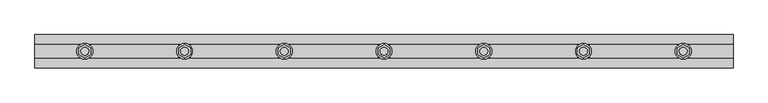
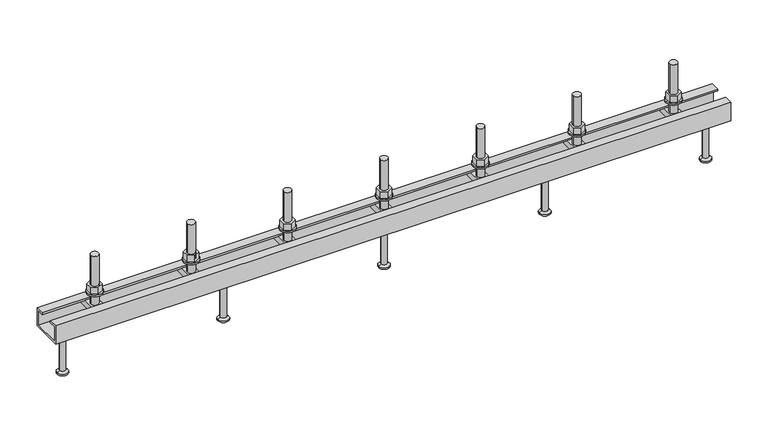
"""IFC4 building model written with IfcOpenShell, lengths in millimetres: fastener geometry, JTA-K JORDAHL® AnchorChannels : JTA-K L=1050 mm."""

from ifc_helpers import new_model, si_unit, point, frame, frame_2d, origin, place, context, project, spatial, polyline, circle_curve, trimmed, segment, composite_curve, outline, extrude, source, transform, mapped, element, save
from ifc_brep_helpers import plane_surface, cylinder_surface, revolved_surface, advanced_brep


def fastener_7a9c5ce5(model_context):
    return source(origin(), model_context, "Body", "SolidModel", [
        extrude(outline(polyline([(825.0, -10.3923048), (816.0, -5.1961524), (816.0, 5.1961524), (825.0, 10.3923048), (834.0, 5.1961524), (834.0, -5.1961524), (825.0, -10.3923048)]), holes=[composite_curve([segment(trimmed(circle_curve(frame_2d((825.0, 0.0)), 6.0), [point((819.0, 0.0))], [point((831.0, 0.0))], True, "CARTESIAN"), True, "CONTINUOUS"), segment(trimmed(circle_curve(frame_2d((825.0, 0.0)), 6.0), [point((831.0, 0.0))], [point((819.0, 0.0))], True, "CARTESIAN"), True, "CONTINUOUS")], self_intersect=False)]), frame((0.0, 0.0, 17.5), z_axis=(0.0, 0.0, 1.0), x_axis=(1.0, 0.0, 0.0)), (0.0, 0.0, 1.0), 10.8),
        extrude(outline(composite_curve([segment(trimmed(circle_curve(frame_2d((825.0, 0.0)), 12.0), [point((813.0, 0.0))], [point((837.0, 0.0))], False, "CARTESIAN"), True, "CONTINUOUS"), segment(trimmed(circle_curve(frame_2d((825.0, 0.0)), 12.0), [point((837.0, 0.0))], [point((813.0, 0.0))], False, "CARTESIAN"), True, "CONTINUOUS")], self_intersect=False), holes=[composite_curve([segment(trimmed(circle_curve(frame_2d((825.0, 0.0)), 6.5), [point((818.5, 0.0))], [point((831.5, 0.0))], True, "CARTESIAN"), True, "CONTINUOUS"), segment(trimmed(circle_curve(frame_2d((825.0, 0.0)), 6.5), [point((831.5, 0.0))], [point((818.5, 0.0))], True, "CARTESIAN"), True, "CONTINUOUS")], self_intersect=False)]), frame((0.0, 0.0, 15.0), z_axis=(0.0, 0.0, 1.0), x_axis=(1.0, 0.0, 0.0)), (0.0, 0.0, 1.0), 2.5),
        extrude(outline(polyline([(675.0, -10.3923048), (666.0, -5.1961524), (666.0, 5.1961524), (675.0, 10.3923048), (684.0, 5.1961524), (684.0, -5.1961524), (675.0, -10.3923048)]), holes=[composite_curve([segment(trimmed(circle_curve(frame_2d((675.0, 0.0)), 6.0), [point((669.0, 0.0))], [point((681.0, 0.0))], True, "CARTESIAN"), True, "CONTINUOUS"), segment(trimmed(circle_curve(frame_2d((675.0, 0.0)), 6.0), [point((681.0, 0.0))], [point((669.0, 0.0))], True, "CARTESIAN"), True, "CONTINUOUS")], self_intersect=False)]), frame((0.0, 0.0, 17.5), z_axis=(0.0, 0.0, 1.0), x_axis=(1.0, 0.0, 0.0)), (0.0, 0.0, 1.0), 10.8),
        extrude(outline(composite_curve([segment(trimmed(circle_curve(frame_2d((675.0, 0.0)), 12.0), [point((663.0, 0.0))], [point((687.0, 0.0))], False, "CARTESIAN"), True, "CONTINUOUS"), segment(trimmed(circle_curve(frame_2d((675.0, 0.0)), 12.0), [point((687.0, 0.0))], [point((663.0, 0.0))], False, "CARTESIAN"), True, "CONTINUOUS")], self_intersect=False), holes=[composite_curve([segment(trimmed(circle_curve(frame_2d((675.0, 0.0)), 6.5), [point((668.5, 0.0))], [point((681.5, 0.0))], True, "CARTESIAN"), True, "CONTINUOUS"), segment(trimmed(circle_curve(frame_2d((675.0, 0.0)), 6.5), [point((681.5, 0.0))], [point((668.5, 0.0))], True, "CARTESIAN"), True, "CONTINUOUS")], self_intersect=False)]), frame((0.0, 0.0, 15.0), z_axis=(0.0, 0.0, 1.0), x_axis=(1.0, 0.0, 0.0)), (0.0, 0.0, 1.0), 2.5),
        extrude(outline(polyline([(525.0, -10.3923048), (516.0, -5.1961524), (516.0, 5.1961524), (525.0, 10.3923048), (534.0, 5.1961524), (534.0, -5.1961524), (525.0, -10.3923048)]), holes=[composite_curve([segment(trimmed(circle_curve(frame_2d((525.0, 0.0)), 6.0), [point((519.0, 0.0))], [point((531.0, 0.0))], True, "CARTESIAN"), True, "CONTINUOUS"), segment(trimmed(circle_curve(frame_2d((525.0, 0.0)), 6.0), [point((531.0, 0.0))], [point((519.0, 0.0))], True, "CARTESIAN"), True, "CONTINUOUS")], self_intersect=False)]), frame((0.0, 0.0, 17.5), z_axis=(0.0, 0.0, 1.0), x_axis=(1.0, 0.0, 0.0)), (0.0, 0.0, 1.0), 10.8),
        extrude(outline(composite_curve([segment(trimmed(circle_curve(frame_2d((525.0, 0.0)), 12.0), [point((513.0, 0.0))], [point((537.0, 0.0))], False, "CARTESIAN"), True, "CONTINUOUS"), segment(trimmed(circle_curve(frame_2d((525.0, 0.0)), 12.0), [point((537.0, 0.0))], [point((513.0, 0.0))], False, "CARTESIAN"), True, "CONTINUOUS")], self_intersect=False), holes=[composite_curve([segment(trimmed(circle_curve(frame_2d((525.0, 0.0)), 6.5), [point((518.5, 0.0))], [point((531.5, 0.0))], True, "CARTESIAN"), True, "CONTINUOUS"), segment(trimmed(circle_curve(frame_2d((525.0, 0.0)), 6.5), [point((531.5, 0.0))], [point((518.5, 0.0))], True, "CARTESIAN"), True, "CONTINUOUS")], self_intersect=False)]), frame((0.0, 0.0, 15.0), z_axis=(0.0, 0.0, 1.0), x_axis=(1.0, 0.0, 0.0)), (0.0, 0.0, 1.0), 2.5),
        extrude(outline(polyline([(375.0, -10.3923048), (366.0, -5.1961524), (366.0, 5.1961524), (375.0, 10.3923048), (384.0, 5.1961524), (384.0, -5.1961524), (375.0, -10.3923048)]), holes=[composite_curve([segment(trimmed(circle_curve(frame_2d((375.0, 0.0)), 6.0), [point((369.0, 0.0))], [point((381.0, 0.0))], True, "CARTESIAN"), True, "CONTINUOUS"), segment(trimmed(circle_curve(frame_2d((375.0, 0.0)), 6.0), [point((381.0, 0.0))], [point((369.0, 0.0))], True, "CARTESIAN"), True, "CONTINUOUS")], self_intersect=False)]), frame((0.0, 0.0, 17.5), z_axis=(0.0, 0.0, 1.0), x_axis=(1.0, 0.0, 0.0)), (0.0, 0.0, 1.0), 10.8),
        extrude(outline(composite_curve([segment(trimmed(circle_curve(frame_2d((375.0, 0.0)), 12.0), [point((363.0, 0.0))], [point((387.0, 0.0))], False, "CARTESIAN"), True, "CONTINUOUS"), segment(trimmed(circle_curve(frame_2d((375.0, 0.0)), 12.0), [point((387.0, 0.0))], [point((363.0, 0.0))], False, "CARTESIAN"), True, "CONTINUOUS")], self_intersect=False), holes=[composite_curve([segment(trimmed(circle_curve(frame_2d((375.0, 0.0)), 6.5), [point((368.5, 0.0))], [point((381.5, 0.0))], True, "CARTESIAN"), True, "CONTINUOUS"), segment(trimmed(circle_curve(frame_2d((375.0, 0.0)), 6.5), [point((381.5, 0.0))], [point((368.5, 0.0))], True, "CARTESIAN"), True, "CONTINUOUS")], self_intersect=False)]), frame((0.0, 0.0, 15.0), z_axis=(0.0, 0.0, 1.0), x_axis=(1.0, 0.0, 0.0)), (0.0, 0.0, 1.0), 2.5),
        extrude(outline(polyline([(225.0, -10.3923048), (216.0, -5.1961524), (216.0, 5.1961524), (225.0, 10.3923048), (234.0, 5.1961524), (234.0, -5.1961524), (225.0, -10.3923048)]), holes=[composite_curve([segment(trimmed(circle_curve(frame_2d((225.0, 0.0)), 6.0), [point((219.0, 0.0))], [point((231.0, 0.0))], True, "CARTESIAN"), True, "CONTINUOUS"), segment(trimmed(circle_curve(frame_2d((225.0, 0.0)), 6.0), [point((231.0, 0.0))], [point((219.0, 0.0))], True, "CARTESIAN"), True, "CONTINUOUS")], self_intersect=False)]), frame((0.0, 0.0, 17.5), z_axis=(0.0, 0.0, 1.0), x_axis=(1.0, 0.0, 0.0)), (0.0, 0.0, 1.0), 10.8),
        extrude(outline(composite_curve([segment(trimmed(circle_curve(frame_2d((225.0, 0.0)), 12.0), [point((213.0, 0.0))], [point((237.0, 0.0))], False, "CARTESIAN"), True, "CONTINUOUS"), segment(trimmed(circle_curve(frame_2d((225.0, 0.0)), 12.0), [point((237.0, 0.0))], [point((213.0, 0.0))], False, "CARTESIAN"), True, "CONTINUOUS")], self_intersect=False), holes=[composite_curve([segment(trimmed(circle_curve(frame_2d((225.0, 0.0)), 6.5), [point((218.5, 0.0))], [point((231.5, 0.0))], True, "CARTESIAN"), True, "CONTINUOUS"), segment(trimmed(circle_curve(frame_2d((225.0, 0.0)), 6.5), [point((231.5, 0.0))], [point((218.5, 0.0))], True, "CARTESIAN"), True, "CONTINUOUS")], self_intersect=False)]), frame((0.0, 0.0, 15.0), z_axis=(0.0, 0.0, 1.0), x_axis=(1.0, 0.0, 0.0)), (0.0, 0.0, 1.0), 2.5),
        advanced_brep(
        [(833.5, -20.7, -3.0), (833.5, -20.7, -13.0), (833.5, 20.7, -13.0), (833.5, 20.7, -3.0), (816.5, -20.7, -3.0), (816.5, 20.7, -3.0), (816.5, 20.7, -13.0), (816.5, -20.7, -13.0), (831.0, 0.0, -3.0), (819.0, 0.0, -3.0), (819.0, 0.0, 77.0), (831.0, 0.0, 77.0)],
        [
            (0, 1),
            (1, 2),
            (2, 3),
            (3, 0),
            (4, 5),
            (5, 6),
            (6, 7),
            (7, 4),
            (3, 5),
            (4, 0),
            (8, 9, circle_curve(frame((825.0, 0.0, -3.0), z_axis=(0.0, 0.0, -1.0), x_axis=(1.0, 0.0, 0.0)), 6.0)),
            (9, 8, circle_curve(frame((825.0, 0.0, -3.0), z_axis=(0.0, 0.0, -1.0), x_axis=(1.0, 0.0, 0.0)), 6.0)),
            (2, 6),
            (1, 7),
            (10, 11, circle_curve(frame((825.0, 0.0, 77.0), z_axis=(0.0, 0.0, 1.0), x_axis=(1.0, 0.0, 0.0)), 6.0)),
            (11, 10, circle_curve(frame((825.0, 0.0, 77.0), z_axis=(0.0, 0.0, 1.0), x_axis=(1.0, 0.0, 0.0)), 6.0)),
            (11, 8),
            (9, 10),
        ],
        [
            plane_surface(frame((833.5, 20.7, -3.0), z_axis=(1.0, 0.0, 0.0), x_axis=(0.0, 1.0, 0.0))),
            plane_surface(frame((816.5, 20.7, -3.0), z_axis=(-1.0, 0.0, 0.0), x_axis=(0.0, -1.0, 0.0))),
            plane_surface(frame((833.5, -20.7, -3.0), z_axis=(0.0, 0.0, 1.0), x_axis=(-1.0, 0.0, 0.0))),
            plane_surface(frame((833.5, 20.7, -3.0), z_axis=(0.0, 1.0, 0.0), x_axis=(-1.0, 0.0, 0.0))),
            plane_surface(frame((833.5, 20.7, -13.0), z_axis=(0.0, 0.0, -1.0), x_axis=(-1.0, 0.0, 0.0))),
            plane_surface(frame((833.5, -20.7, -13.0), z_axis=(0.0, -1.0, 0.0), x_axis=(-1.0, 0.0, 0.0))),
            plane_surface(frame((831.0, 0.0, 77.0), z_axis=(0.0, 0.0, 1.0), x_axis=(0.0, -1.0, 0.0))),
            cylinder_surface(frame((825.0, 0.0, -3.0), z_axis=(0.0, 0.0, 1.0), x_axis=(1.0, 0.0, 0.0)), 6.0),
        ],
        [
            (0, [[1, 2, 3, 4]]),
            (1, [[5, 6, 7, 8]]),
            (2, [[9, -5, 10, -4], [11, 12]]),
            (3, [[13, -6, -9, -3]]),
            (4, [[14, -7, -13, -2]]),
            (5, [[-10, -8, -14, -1]]),
            (6, [[15, 16]]),
            (7, [[17, -12, 18, -16]]),
            (7, [[-18, -11, -17, -15]]),
        ],
    ),
        advanced_brep(
        [(683.5, -20.7, -3.0), (683.5, -20.7, -13.0), (683.5, 20.7, -13.0), (683.5, 20.7, -3.0), (666.5, -20.7, -3.0), (666.5, 20.7, -3.0), (666.5, 20.7, -13.0), (666.5, -20.7, -13.0), (681.0, 0.0, -3.0), (669.0, 0.0, -3.0), (669.0, 0.0, 77.0), (681.0, 0.0, 77.0)],
        [
            (0, 1),
            (1, 2),
            (2, 3),
            (3, 0),
            (4, 5),
            (5, 6),
            (6, 7),
            (7, 4),
            (3, 5),
            (4, 0),
            (8, 9, circle_curve(frame((675.0, 0.0, -3.0), z_axis=(0.0, 0.0, -1.0), x_axis=(1.0, 0.0, 0.0)), 6.0)),
            (9, 8, circle_curve(frame((675.0, 0.0, -3.0), z_axis=(0.0, 0.0, -1.0), x_axis=(1.0, 0.0, 0.0)), 6.0)),
            (2, 6),
            (1, 7),
            (10, 11, circle_curve(frame((675.0, 0.0, 77.0), z_axis=(0.0, 0.0, 1.0), x_axis=(1.0, 0.0, 0.0)), 6.0)),
            (11, 10, circle_curve(frame((675.0, 0.0, 77.0), z_axis=(0.0, 0.0, 1.0), x_axis=(1.0, 0.0, 0.0)), 6.0)),
            (11, 8),
            (9, 10),
        ],
        [
            plane_surface(frame((683.5, 20.7, -3.0), z_axis=(1.0, 0.0, 0.0), x_axis=(0.0, 1.0, 0.0))),
            plane_surface(frame((666.5, 20.7, -3.0), z_axis=(-1.0, 0.0, 0.0), x_axis=(0.0, -1.0, 0.0))),
            plane_surface(frame((683.5, -20.7, -3.0), z_axis=(0.0, 0.0, 1.0), x_axis=(-1.0, 0.0, 0.0))),
            plane_surface(frame((683.5, 20.7, -3.0), z_axis=(0.0, 1.0, 0.0), x_axis=(-1.0, 0.0, 0.0))),
            plane_surface(frame((683.5, 20.7, -13.0), z_axis=(0.0, 0.0, -1.0), x_axis=(-1.0, 0.0, 0.0))),
            plane_surface(frame((683.5, -20.7, -13.0), z_axis=(0.0, -1.0, 0.0), x_axis=(-1.0, 0.0, 0.0))),
            plane_surface(frame((681.0, 0.0, 77.0), z_axis=(0.0, 0.0, 1.0), x_axis=(0.0, -1.0, 0.0))),
            cylinder_surface(frame((675.0, 0.0, -3.0), z_axis=(0.0, 0.0, 1.0), x_axis=(1.0, 0.0, 0.0)), 6.0),
        ],
        [
            (0, [[1, 2, 3, 4]]),
            (1, [[5, 6, 7, 8]]),
            (2, [[9, -5, 10, -4], [11, 12]]),
            (3, [[13, -6, -9, -3]]),
            (4, [[14, -7, -13, -2]]),
            (5, [[-10, -8, -14, -1]]),
            (6, [[15, 16]]),
            (7, [[17, -12, 18, -16]]),
            (7, [[-18, -11, -17, -15]]),
        ],
    ),
        advanced_brep(
        [(533.5, -20.7, -3.0), (533.5, -20.7, -13.0), (533.5, 20.7, -13.0), (533.5, 20.7, -3.0), (516.5, -20.7, -3.0), (516.5, 20.7, -3.0), (516.5, 20.7, -13.0), (516.5, -20.7, -13.0), (531.0, 0.0, -3.0), (519.0, 0.0, -3.0), (519.0, 0.0, 77.0), (531.0, 0.0, 77.0)],
        [
            (0, 1),
            (1, 2),
            (2, 3),
            (3, 0),
            (4, 5),
            (5, 6),
            (6, 7),
            (7, 4),
            (3, 5),
            (4, 0),
            (8, 9, circle_curve(frame((525.0, 0.0, -3.0), z_axis=(0.0, 0.0, -1.0), x_axis=(1.0, 0.0, 0.0)), 6.0)),
            (9, 8, circle_curve(frame((525.0, 0.0, -3.0), z_axis=(0.0, 0.0, -1.0), x_axis=(1.0, 0.0, 0.0)), 6.0)),
            (2, 6),
            (1, 7),
            (10, 11, circle_curve(frame((525.0, 0.0, 77.0), z_axis=(0.0, 0.0, 1.0), x_axis=(1.0, 0.0, 0.0)), 6.0)),
            (11, 10, circle_curve(frame((525.0, 0.0, 77.0), z_axis=(0.0, 0.0, 1.0), x_axis=(1.0, 0.0, 0.0)), 6.0)),
            (11, 8),
            (9, 10),
        ],
        [
            plane_surface(frame((533.5, 20.7, -3.0), z_axis=(1.0, 0.0, 0.0), x_axis=(0.0, 1.0, 0.0))),
            plane_surface(frame((516.5, 20.7, -3.0), z_axis=(-1.0, 0.0, 0.0), x_axis=(0.0, -1.0, 0.0))),
            plane_surface(frame((533.5, -20.7, -3.0), z_axis=(0.0, 0.0, 1.0), x_axis=(-1.0, 0.0, 0.0))),
            plane_surface(frame((533.5, 20.7, -3.0), z_axis=(0.0, 1.0, 0.0), x_axis=(-1.0, 0.0, 0.0))),
            plane_surface(frame((533.5, 20.7, -13.0), z_axis=(0.0, 0.0, -1.0), x_axis=(-1.0, 0.0, 0.0))),
            plane_surface(frame((533.5, -20.7, -13.0), z_axis=(0.0, -1.0, 0.0), x_axis=(-1.0, 0.0, 0.0))),
            plane_surface(frame((531.0, 0.0, 77.0), z_axis=(0.0, 0.0, 1.0), x_axis=(0.0, -1.0, 0.0))),
            cylinder_surface(frame((525.0, 0.0, -3.0), z_axis=(0.0, 0.0, 1.0), x_axis=(1.0, 0.0, 0.0)), 6.0),
        ],
        [
            (0, [[1, 2, 3, 4]]),
            (1, [[5, 6, 7, 8]]),
            (2, [[9, -5, 10, -4], [11, 12]]),
            (3, [[13, -6, -9, -3]]),
            (4, [[14, -7, -13, -2]]),
            (5, [[-10, -8, -14, -1]]),
            (6, [[15, 16]]),
            (7, [[17, -12, 18, -16]]),
            (7, [[-18, -11, -17, -15]]),
        ],
    ),
        advanced_brep(
        [(383.5, -20.7, -3.0), (383.5, -20.7, -13.0), (383.5, 20.7, -13.0), (383.5, 20.7, -3.0), (366.5, -20.7, -3.0), (366.5, 20.7, -3.0), (366.5, 20.7, -13.0), (366.5, -20.7, -13.0), (381.0, 0.0, -3.0), (369.0, 0.0, -3.0), (369.0, 0.0, 77.0), (381.0, 0.0, 77.0)],
        [
            (0, 1),
            (1, 2),
            (2, 3),
            (3, 0),
            (4, 5),
            (5, 6),
            (6, 7),
            (7, 4),
            (3, 5),
            (4, 0),
            (8, 9, circle_curve(frame((375.0, 0.0, -3.0), z_axis=(0.0, 0.0, -1.0), x_axis=(1.0, 0.0, 0.0)), 6.0)),
            (9, 8, circle_curve(frame((375.0, 0.0, -3.0), z_axis=(0.0, 0.0, -1.0), x_axis=(1.0, 0.0, 0.0)), 6.0)),
            (2, 6),
            (1, 7),
            (10, 11, circle_curve(frame((375.0, 0.0, 77.0), z_axis=(0.0, 0.0, 1.0), x_axis=(1.0, 0.0, 0.0)), 6.0)),
            (11, 10, circle_curve(frame((375.0, 0.0, 77.0), z_axis=(0.0, 0.0, 1.0), x_axis=(1.0, 0.0, 0.0)), 6.0)),
            (11, 8),
            (9, 10),
        ],
        [
            plane_surface(frame((383.5, 20.7, -3.0), z_axis=(1.0, 0.0, 0.0), x_axis=(0.0, 1.0, 0.0))),
            plane_surface(frame((366.5, 20.7, -3.0), z_axis=(-1.0, 0.0, 0.0), x_axis=(0.0, -1.0, 0.0))),
            plane_surface(frame((383.5, -20.7, -3.0), z_axis=(0.0, 0.0, 1.0), x_axis=(-1.0, 0.0, 0.0))),
            plane_surface(frame((383.5, 20.7, -3.0), z_axis=(0.0, 1.0, 0.0), x_axis=(-1.0, 0.0, 0.0))),
            plane_surface(frame((383.5, 20.7, -13.0), z_axis=(0.0, 0.0, -1.0), x_axis=(-1.0, 0.0, 0.0))),
            plane_surface(frame((383.5, -20.7, -13.0), z_axis=(0.0, -1.0, 0.0), x_axis=(-1.0, 0.0, 0.0))),
            plane_surface(frame((381.0, 0.0, 77.0), z_axis=(0.0, 0.0, 1.0), x_axis=(0.0, -1.0, 0.0))),
            cylinder_surface(frame((375.0, 0.0, -3.0), z_axis=(0.0, 0.0, 1.0), x_axis=(1.0, 0.0, 0.0)), 6.0),
        ],
        [
            (0, [[1, 2, 3, 4]]),
            (1, [[5, 6, 7, 8]]),
            (2, [[9, -5, 10, -4], [11, 12]]),
            (3, [[13, -6, -9, -3]]),
            (4, [[14, -7, -13, -2]]),
            (5, [[-10, -8, -14, -1]]),
            (6, [[15, 16]]),
            (7, [[17, -12, 18, -16]]),
            (7, [[-18, -11, -17, -15]]),
        ],
    ),
        advanced_brep(
        [(233.5, -20.7, -3.0), (233.5, -20.7, -13.0), (233.5, 20.7, -13.0), (233.5, 20.7, -3.0), (216.5, -20.7, -3.0), (216.5, 20.7, -3.0), (216.5, 20.7, -13.0), (216.5, -20.7, -13.0), (231.0, 0.0, -3.0), (219.0, 0.0, -3.0), (219.0, 0.0, 77.0), (231.0, 0.0, 77.0)],
        [
            (0, 1),
            (1, 2),
            (2, 3),
            (3, 0),
            (4, 5),
            (5, 6),
            (6, 7),
            (7, 4),
            (3, 5),
            (4, 0),
            (8, 9, circle_curve(frame((225.0, 0.0, -3.0), z_axis=(0.0, 0.0, -1.0), x_axis=(1.0, 0.0, 0.0)), 6.0)),
            (9, 8, circle_curve(frame((225.0, 0.0, -3.0), z_axis=(0.0, 0.0, -1.0), x_axis=(1.0, 0.0, 0.0)), 6.0)),
            (2, 6),
            (1, 7),
            (10, 11, circle_curve(frame((225.0, 0.0, 77.0), z_axis=(0.0, 0.0, 1.0), x_axis=(1.0, 0.0, 0.0)), 6.0)),
            (11, 10, circle_curve(frame((225.0, 0.0, 77.0), z_axis=(0.0, 0.0, 1.0), x_axis=(1.0, 0.0, 0.0)), 6.0)),
            (11, 8),
            (9, 10),
        ],
        [
            plane_surface(frame((233.5, 20.7, -3.0), z_axis=(1.0, 0.0, 0.0), x_axis=(0.0, 1.0, 0.0))),
            plane_surface(frame((216.5, 20.7, -3.0), z_axis=(-1.0, 0.0, 0.0), x_axis=(0.0, -1.0, 0.0))),
            plane_surface(frame((233.5, -20.7, -3.0), z_axis=(0.0, 0.0, 1.0), x_axis=(-1.0, 0.0, 0.0))),
            plane_surface(frame((233.5, 20.7, -3.0), z_axis=(0.0, 1.0, 0.0), x_axis=(-1.0, 0.0, 0.0))),
            plane_surface(frame((233.5, 20.7, -13.0), z_axis=(0.0, 0.0, -1.0), x_axis=(-1.0, 0.0, 0.0))),
            plane_surface(frame((233.5, -20.7, -13.0), z_axis=(0.0, -1.0, 0.0), x_axis=(-1.0, 0.0, 0.0))),
            plane_surface(frame((231.0, 0.0, 77.0), z_axis=(0.0, 0.0, 1.0), x_axis=(0.0, -1.0, 0.0))),
            cylinder_surface(frame((225.0, 0.0, -3.0), z_axis=(0.0, 0.0, 1.0), x_axis=(1.0, 0.0, 0.0)), 6.0),
        ],
        [
            (0, [[1, 2, 3, 4]]),
            (1, [[5, 6, 7, 8]]),
            (2, [[9, -5, 10, -4], [11, 12]]),
            (3, [[13, -6, -9, -3]]),
            (4, [[14, -7, -13, -2]]),
            (5, [[-10, -8, -14, -1]]),
            (6, [[15, 16]]),
            (7, [[17, -12, 18, -16]]),
            (7, [[-18, -11, -17, -15]]),
        ],
    ),
        advanced_brep(
        [(775.0, 0.0, -30.0), (761.5, 0.0, -30.0), (788.5, 0.0, -30.0), (766.5, 0.0, -100.0), (775.0, 0.0, -100.0), (783.5, 0.0, -100.0), (766.5, 0.0, -98.0), (783.5, 0.0, -98.0), (770.5, 0.0, -95.6905989), (779.5, 0.0, -95.6905989), (770.5, 0.0, -32.5), (779.5, 0.0, -32.5)],
        [
            (0, 1),
            (1, 2, circle_curve(frame((775.0, 0.0, -30.0), z_axis=(0.0, 0.0, 1.0), x_axis=(1.0, 0.0, 0.0)), 13.5)),
            (2, 0),
            (2, 1, circle_curve(frame((775.0, 0.0, -30.0), z_axis=(0.0, 0.0, 1.0), x_axis=(1.0, 0.0, 0.0)), 13.5)),
            (3, 4),
            (4, 5),
            (5, 3, circle_curve(frame((775.0, 0.0, -100.0), z_axis=(0.0, 0.0, -1.0), x_axis=(1.0, 0.0, 0.0)), 8.5)),
            (3, 5, circle_curve(frame((775.0, 0.0, -100.0), z_axis=(0.0, 0.0, -1.0), x_axis=(1.0, 0.0, 0.0)), 8.5)),
            (6, 3),
            (5, 7),
            (7, 6, circle_curve(frame((775.0, 0.0, -98.0), z_axis=(0.0, 0.0, -1.0), x_axis=(1.0, 0.0, 0.0)), 8.5)),
            (6, 7, circle_curve(frame((775.0, 0.0, -98.0), z_axis=(0.0, 0.0, -1.0), x_axis=(1.0, 0.0, 0.0)), 8.5)),
            (8, 6),
            (7, 9),
            (9, 8, circle_curve(frame((775.0, 0.0, -95.6905989), z_axis=(0.0, 0.0, -1.0), x_axis=(1.0, 0.0, 0.0)), 4.5)),
            (8, 9, circle_curve(frame((775.0, 0.0, -95.6905989), z_axis=(0.0, 0.0, -1.0), x_axis=(1.0, 0.0, 0.0)), 4.5)),
            (10, 8),
            (9, 11),
            (11, 10, circle_curve(frame((775.0, 0.0, -32.5), z_axis=(0.0, 0.0, -1.0), x_axis=(1.0, 0.0, 0.0)), 4.5)),
            (10, 11, circle_curve(frame((775.0, 0.0, -32.5), z_axis=(0.0, 0.0, -1.0), x_axis=(1.0, 0.0, 0.0)), 4.5)),
            (1, 10),
            (11, 2),
        ],
        [
            plane_surface(frame((775.0, 0.0, -30.0), z_axis=(0.0, 0.0, 1.0), x_axis=(1.0, 0.0, 0.0))),
            plane_surface(frame((775.0, 0.0, -100.0), z_axis=(0.0, 0.0, -1.0), x_axis=(1.0, 0.0, 0.0))),
            cylinder_surface(frame((775.0, 0.0, 2284.3150031), z_axis=(0.0, 0.0, 1.0), x_axis=(1.0, 0.0, 0.0)), 8.5),
            revolved_surface(polyline([(783.5, 0.0, -98.0), (779.5, 0.0, -95.6905989)]), (775.0, 0.0, 2284.3150031), (0.0, 0.0, 1.0)),
            cylinder_surface(frame((775.0, 0.0, 2284.3150031), z_axis=(0.0, 0.0, 1.0), x_axis=(1.0, 0.0, 0.0)), 4.5),
            revolved_surface(polyline([(779.5, 0.0, -32.5), (788.5, 0.0, -30.0)]), (775.0, 0.0, 2284.3150031), (0.0, 0.0, 1.0)),
        ],
        [
            (0, [[1, 2, 3]]),
            (0, [[-3, 4, -1]]),
            (1, [[5, 6, 7]]),
            (1, [[-6, -5, 8]]),
            (2, [[9, -7, 10, 11]]),
            (2, [[-10, -8, -9, 12]]),
            (3, [[13, -11, 14, 15]]),
            (3, [[-14, -12, -13, 16]]),
            (4, [[17, -15, 18, 19]]),
            (4, [[-18, -16, -17, 20]]),
            (5, [[21, -19, 22, -2]]),
            (5, [[-22, -20, -21, -4]]),
        ],
    ),
        advanced_brep(
        [(525.0, 0.0, -30.0), (511.5, 0.0, -30.0), (538.5, 0.0, -30.0), (516.5, 0.0, -100.0), (525.0, 0.0, -100.0), (533.5, 0.0, -100.0), (516.5, 0.0, -98.0), (533.5, 0.0, -98.0), (520.5, 0.0, -95.6905989), (529.5, 0.0, -95.6905989), (520.5, 0.0, -32.5), (529.5, 0.0, -32.5)],
        [
            (0, 1),
            (1, 2, circle_curve(frame((525.0, 0.0, -30.0), z_axis=(0.0, 0.0, 1.0), x_axis=(1.0, 0.0, 0.0)), 13.5)),
            (2, 0),
            (2, 1, circle_curve(frame((525.0, 0.0, -30.0), z_axis=(0.0, 0.0, 1.0), x_axis=(1.0, 0.0, 0.0)), 13.5)),
            (3, 4),
            (4, 5),
            (5, 3, circle_curve(frame((525.0, 0.0, -100.0), z_axis=(0.0, 0.0, -1.0), x_axis=(1.0, 0.0, 0.0)), 8.5)),
            (3, 5, circle_curve(frame((525.0, 0.0, -100.0), z_axis=(0.0, 0.0, -1.0), x_axis=(1.0, 0.0, 0.0)), 8.5)),
            (6, 3),
            (5, 7),
            (7, 6, circle_curve(frame((525.0, 0.0, -98.0), z_axis=(0.0, 0.0, -1.0), x_axis=(1.0, 0.0, 0.0)), 8.5)),
            (6, 7, circle_curve(frame((525.0, 0.0, -98.0), z_axis=(0.0, 0.0, -1.0), x_axis=(1.0, 0.0, 0.0)), 8.5)),
            (8, 6),
            (7, 9),
            (9, 8, circle_curve(frame((525.0, 0.0, -95.6905989), z_axis=(0.0, 0.0, -1.0), x_axis=(1.0, 0.0, 0.0)), 4.5)),
            (8, 9, circle_curve(frame((525.0, 0.0, -95.6905989), z_axis=(0.0, 0.0, -1.0), x_axis=(1.0, 0.0, 0.0)), 4.5)),
            (10, 8),
            (9, 11),
            (11, 10, circle_curve(frame((525.0, 0.0, -32.5), z_axis=(0.0, 0.0, -1.0), x_axis=(1.0, 0.0, 0.0)), 4.5)),
            (10, 11, circle_curve(frame((525.0, 0.0, -32.5), z_axis=(0.0, 0.0, -1.0), x_axis=(1.0, 0.0, 0.0)), 4.5)),
            (1, 10),
            (11, 2),
        ],
        [
            plane_surface(frame((525.0, 0.0, -30.0), z_axis=(0.0, 0.0, 1.0), x_axis=(1.0, 0.0, 0.0))),
            plane_surface(frame((525.0, 0.0, -100.0), z_axis=(0.0, 0.0, -1.0), x_axis=(1.0, 0.0, 0.0))),
            cylinder_surface(frame((525.0, 0.0, 2284.3150031), z_axis=(0.0, 0.0, 1.0), x_axis=(1.0, 0.0, 0.0)), 8.5),
            revolved_surface(polyline([(533.5, 0.0, -98.0), (529.5, 0.0, -95.6905989)]), (525.0, 0.0, 2284.3150031), (0.0, 0.0, 1.0)),
            cylinder_surface(frame((525.0, 0.0, 2284.3150031), z_axis=(0.0, 0.0, 1.0), x_axis=(1.0, 0.0, 0.0)), 4.5),
            revolved_surface(polyline([(529.5, 0.0, -32.5), (538.5, 0.0, -30.0)]), (525.0, 0.0, 2284.3150031), (0.0, 0.0, 1.0)),
        ],
        [
            (0, [[1, 2, 3]]),
            (0, [[-3, 4, -1]]),
            (1, [[5, 6, 7]]),
            (1, [[-6, -5, 8]]),
            (2, [[9, -7, 10, 11]]),
            (2, [[-10, -8, -9, 12]]),
            (3, [[13, -11, 14, 15]]),
            (3, [[-14, -12, -13, 16]]),
            (4, [[17, -15, 18, 19]]),
            (4, [[-18, -16, -17, 20]]),
            (5, [[21, -19, 22, -2]]),
            (5, [[-22, -20, -21, -4]]),
        ],
    ),
        advanced_brep(
        [(275.0, 0.0, -30.0), (261.5, 0.0, -30.0), (288.5, 0.0, -30.0), (266.5, 0.0, -100.0), (275.0, 0.0, -100.0), (283.5, 0.0, -100.0), (266.5, 0.0, -98.0), (283.5, 0.0, -98.0), (270.5, 0.0, -95.6905989), (279.5, 0.0, -95.6905989), (270.5, 0.0, -32.5), (279.5, 0.0, -32.5)],
        [
            (0, 1),
            (1, 2, circle_curve(frame((275.0, 0.0, -30.0), z_axis=(0.0, 0.0, 1.0), x_axis=(1.0, 0.0, 0.0)), 13.5)),
            (2, 0),
            (2, 1, circle_curve(frame((275.0, 0.0, -30.0), z_axis=(0.0, 0.0, 1.0), x_axis=(1.0, 0.0, 0.0)), 13.5)),
            (3, 4),
            (4, 5),
            (5, 3, circle_curve(frame((275.0, 0.0, -100.0), z_axis=(0.0, 0.0, -1.0), x_axis=(1.0, 0.0, 0.0)), 8.5)),
            (3, 5, circle_curve(frame((275.0, 0.0, -100.0), z_axis=(0.0, 0.0, -1.0), x_axis=(1.0, 0.0, 0.0)), 8.5)),
            (6, 3),
            (5, 7),
            (7, 6, circle_curve(frame((275.0, 0.0, -98.0), z_axis=(0.0, 0.0, -1.0), x_axis=(1.0, 0.0, 0.0)), 8.5)),
            (6, 7, circle_curve(frame((275.0, 0.0, -98.0), z_axis=(0.0, 0.0, -1.0), x_axis=(1.0, 0.0, 0.0)), 8.5)),
            (8, 6),
            (7, 9),
            (9, 8, circle_curve(frame((275.0, 0.0, -95.6905989), z_axis=(0.0, 0.0, -1.0), x_axis=(1.0, 0.0, 0.0)), 4.5)),
            (8, 9, circle_curve(frame((275.0, 0.0, -95.6905989), z_axis=(0.0, 0.0, -1.0), x_axis=(1.0, 0.0, 0.0)), 4.5)),
            (10, 8),
            (9, 11),
            (11, 10, circle_curve(frame((275.0, 0.0, -32.5), z_axis=(0.0, 0.0, -1.0), x_axis=(1.0, 0.0, 0.0)), 4.5)),
            (10, 11, circle_curve(frame((275.0, 0.0, -32.5), z_axis=(0.0, 0.0, -1.0), x_axis=(1.0, 0.0, 0.0)), 4.5)),
            (1, 10),
            (11, 2),
        ],
        [
            plane_surface(frame((275.0, 0.0, -30.0), z_axis=(0.0, 0.0, 1.0), x_axis=(1.0, 0.0, 0.0))),
            plane_surface(frame((275.0, 0.0, -100.0), z_axis=(0.0, 0.0, -1.0), x_axis=(1.0, 0.0, 0.0))),
            cylinder_surface(frame((275.0, 0.0, 2284.3150031), z_axis=(0.0, 0.0, 1.0), x_axis=(1.0, 0.0, 0.0)), 8.5),
            revolved_surface(polyline([(283.5, 0.0, -98.0), (279.5, 0.0, -95.6905989)]), (275.0, 0.0, 2284.3150031), (0.0, 0.0, 1.0)),
            cylinder_surface(frame((275.0, 0.0, 2284.3150031), z_axis=(0.0, 0.0, 1.0), x_axis=(1.0, 0.0, 0.0)), 4.5),
            revolved_surface(polyline([(279.5, 0.0, -32.5), (288.5, 0.0, -30.0)]), (275.0, 0.0, 2284.3150031), (0.0, 0.0, 1.0)),
        ],
        [
            (0, [[1, 2, 3]]),
            (0, [[-3, 4, -1]]),
            (1, [[5, 6, 7]]),
            (1, [[-6, -5, 8]]),
            (2, [[9, -7, 10, 11]]),
            (2, [[-10, -8, -9, 12]]),
            (3, [[13, -11, 14, 15]]),
            (3, [[-14, -12, -13, 16]]),
            (4, [[17, -15, 18, 19]]),
            (4, [[-18, -16, -17, 20]]),
            (5, [[21, -19, 22, -2]]),
            (5, [[-22, -20, -21, -4]]),
        ],
    ),
        extrude(outline(polyline([(975.0, -10.3923048), (966.0, -5.1961524), (966.0, 5.1961524), (975.0, 10.3923048), (984.0, 5.1961524), (984.0, -5.1961524), (975.0, -10.3923048)]), holes=[composite_curve([segment(trimmed(circle_curve(frame_2d((975.0, 0.0)), 6.0), [point((969.0, 0.0))], [point((981.0, 0.0))], True, "CARTESIAN"), True, "CONTINUOUS"), segment(trimmed(circle_curve(frame_2d((975.0, 0.0)), 6.0), [point((981.0, 0.0))], [point((969.0, 0.0))], True, "CARTESIAN"), True, "CONTINUOUS")], self_intersect=False)]), frame((0.0, 0.0, 17.5), z_axis=(0.0, 0.0, 1.0), x_axis=(1.0, 0.0, 0.0)), (0.0, 0.0, 1.0), 10.8),
        extrude(outline(composite_curve([segment(trimmed(circle_curve(frame_2d((975.0, 0.0)), 12.0), [point((963.0, 0.0))], [point((987.0, 0.0))], False, "CARTESIAN"), True, "CONTINUOUS"), segment(trimmed(circle_curve(frame_2d((975.0, 0.0)), 12.0), [point((987.0, 0.0))], [point((963.0, 0.0))], False, "CARTESIAN"), True, "CONTINUOUS")], self_intersect=False), holes=[composite_curve([segment(trimmed(circle_curve(frame_2d((975.0, 0.0)), 6.5), [point((968.5, 0.0))], [point((981.5, 0.0))], True, "CARTESIAN"), True, "CONTINUOUS"), segment(trimmed(circle_curve(frame_2d((975.0, 0.0)), 6.5), [point((981.5, 0.0))], [point((968.5, 0.0))], True, "CARTESIAN"), True, "CONTINUOUS")], self_intersect=False)]), frame((0.0, 0.0, 15.0), z_axis=(0.0, 0.0, 1.0), x_axis=(1.0, 0.0, 0.0)), (0.0, 0.0, 1.0), 2.5),
        extrude(outline(polyline([(75.0, -10.3923048), (66.0, -5.1961524), (66.0, 5.1961524), (75.0, 10.3923048), (84.0, 5.1961524), (84.0, -5.1961524), (75.0, -10.3923048)]), holes=[composite_curve([segment(trimmed(circle_curve(frame_2d((75.0, 0.0)), 6.0), [point((69.0, 0.0))], [point((81.0, 0.0))], True, "CARTESIAN"), True, "CONTINUOUS"), segment(trimmed(circle_curve(frame_2d((75.0, 0.0)), 6.0), [point((81.0, 0.0))], [point((69.0, 0.0))], True, "CARTESIAN"), True, "CONTINUOUS")], self_intersect=False)]), frame((0.0, 0.0, 17.5), z_axis=(0.0, 0.0, 1.0), x_axis=(1.0, 0.0, 0.0)), (0.0, 0.0, 1.0), 10.8),
        extrude(outline(composite_curve([segment(trimmed(circle_curve(frame_2d((75.0, 0.0)), 12.0), [point((63.0, 0.0))], [point((87.0, 0.0))], False, "CARTESIAN"), True, "CONTINUOUS"), segment(trimmed(circle_curve(frame_2d((75.0, 0.0)), 12.0), [point((87.0, 0.0))], [point((63.0, 0.0))], False, "CARTESIAN"), True, "CONTINUOUS")], self_intersect=False), holes=[composite_curve([segment(trimmed(circle_curve(frame_2d((75.0, 0.0)), 6.5), [point((68.5, 0.0))], [point((81.5, 0.0))], True, "CARTESIAN"), True, "CONTINUOUS"), segment(trimmed(circle_curve(frame_2d((75.0, 0.0)), 6.5), [point((81.5, 0.0))], [point((68.5, 0.0))], True, "CARTESIAN"), True, "CONTINUOUS")], self_intersect=False)]), frame((0.0, 0.0, 15.0), z_axis=(0.0, 0.0, 1.0), x_axis=(1.0, 0.0, 0.0)), (0.0, 0.0, 1.0), 2.5),
        advanced_brep(
        [(983.5, -20.7, -3.0), (983.5, -20.7, -13.0), (983.5, 20.7, -13.0), (983.5, 20.7, -3.0), (966.5, -20.7, -3.0), (966.5, 20.7, -3.0), (966.5, 20.7, -13.0), (966.5, -20.7, -13.0), (981.0, 0.0, -3.0), (969.0, 0.0, -3.0), (969.0, 0.0, 77.0), (981.0, 0.0, 77.0)],
        [
            (0, 1),
            (1, 2),
            (2, 3),
            (3, 0),
            (4, 5),
            (5, 6),
            (6, 7),
            (7, 4),
            (3, 5),
            (4, 0),
            (8, 9, circle_curve(frame((975.0, 0.0, -3.0), z_axis=(0.0, 0.0, -1.0), x_axis=(1.0, 0.0, 0.0)), 6.0)),
            (9, 8, circle_curve(frame((975.0, 0.0, -3.0), z_axis=(0.0, 0.0, -1.0), x_axis=(1.0, 0.0, 0.0)), 6.0)),
            (2, 6),
            (1, 7),
            (10, 11, circle_curve(frame((975.0, 0.0, 77.0), z_axis=(0.0, 0.0, 1.0), x_axis=(1.0, 0.0, 0.0)), 6.0)),
            (11, 10, circle_curve(frame((975.0, 0.0, 77.0), z_axis=(0.0, 0.0, 1.0), x_axis=(1.0, 0.0, 0.0)), 6.0)),
            (11, 8),
            (9, 10),
        ],
        [
            plane_surface(frame((983.5, 20.7, -3.0), z_axis=(1.0, 0.0, 0.0), x_axis=(0.0, 1.0, 0.0))),
            plane_surface(frame((966.5, 20.7, -3.0), z_axis=(-1.0, 0.0, 0.0), x_axis=(0.0, -1.0, 0.0))),
            plane_surface(frame((983.5, -20.7, -3.0), z_axis=(0.0, 0.0, 1.0), x_axis=(-1.0, 0.0, 0.0))),
            plane_surface(frame((983.5, 20.7, -3.0), z_axis=(0.0, 1.0, 0.0), x_axis=(-1.0, 0.0, 0.0))),
            plane_surface(frame((983.5, 20.7, -13.0), z_axis=(0.0, 0.0, -1.0), x_axis=(-1.0, 0.0, 0.0))),
            plane_surface(frame((983.5, -20.7, -13.0), z_axis=(0.0, -1.0, 0.0), x_axis=(-1.0, 0.0, 0.0))),
            plane_surface(frame((981.0, 0.0, 77.0), z_axis=(0.0, 0.0, 1.0), x_axis=(0.0, -1.0, 0.0))),
            cylinder_surface(frame((975.0, 0.0, -3.0), z_axis=(0.0, 0.0, 1.0), x_axis=(1.0, 0.0, 0.0)), 6.0),
        ],
        [
            (0, [[1, 2, 3, 4]]),
            (1, [[5, 6, 7, 8]]),
            (2, [[9, -5, 10, -4], [11, 12]]),
            (3, [[13, -6, -9, -3]]),
            (4, [[14, -7, -13, -2]]),
            (5, [[-10, -8, -14, -1]]),
            (6, [[15, 16]]),
            (7, [[17, -12, 18, -16]]),
            (7, [[-18, -11, -17, -15]]),
        ],
    ),
        advanced_brep(
        [(83.5, -20.7, -3.0), (83.5, -20.7, -13.0), (83.5, 20.7, -13.0), (83.5, 20.7, -3.0), (66.5, -20.7, -3.0), (66.5, 20.7, -3.0), (66.5, 20.7, -13.0), (66.5, -20.7, -13.0), (81.0, 0.0, -3.0), (69.0, 0.0, -3.0), (69.0, 0.0, 77.0), (81.0, 0.0, 77.0)],
        [
            (0, 1),
            (1, 2),
            (2, 3),
            (3, 0),
            (4, 5),
            (5, 6),
            (6, 7),
            (7, 4),
            (3, 5),
            (4, 0),
            (8, 9, circle_curve(frame((75.0, 0.0, -3.0), z_axis=(0.0, 0.0, -1.0), x_axis=(1.0, 0.0, 0.0)), 6.0)),
            (9, 8, circle_curve(frame((75.0, 0.0, -3.0), z_axis=(0.0, 0.0, -1.0), x_axis=(1.0, 0.0, 0.0)), 6.0)),
            (2, 6),
            (1, 7),
            (10, 11, circle_curve(frame((75.0, 0.0, 77.0), z_axis=(0.0, 0.0, 1.0), x_axis=(1.0, 0.0, 0.0)), 6.0)),
            (11, 10, circle_curve(frame((75.0, 0.0, 77.0), z_axis=(0.0, 0.0, 1.0), x_axis=(1.0, 0.0, 0.0)), 6.0)),
            (11, 8),
            (9, 10),
        ],
        [
            plane_surface(frame((83.5, 20.7, -3.0), z_axis=(1.0, 0.0, 0.0), x_axis=(0.0, 1.0, 0.0))),
            plane_surface(frame((66.5, 20.7, -3.0), z_axis=(-1.0, 0.0, 0.0), x_axis=(0.0, -1.0, 0.0))),
            plane_surface(frame((83.5, -20.7, -3.0), z_axis=(0.0, 0.0, 1.0), x_axis=(-1.0, 0.0, 0.0))),
            plane_surface(frame((83.5, 20.7, -3.0), z_axis=(0.0, 1.0, 0.0), x_axis=(-1.0, 0.0, 0.0))),
            plane_surface(frame((83.5, 20.7, -13.0), z_axis=(0.0, 0.0, -1.0), x_axis=(-1.0, 0.0, 0.0))),
            plane_surface(frame((83.5, -20.7, -13.0), z_axis=(0.0, -1.0, 0.0), x_axis=(-1.0, 0.0, 0.0))),
            plane_surface(frame((81.0, 0.0, 77.0), z_axis=(0.0, 0.0, 1.0), x_axis=(0.0, -1.0, 0.0))),
            cylinder_surface(frame((75.0, 0.0, -3.0), z_axis=(0.0, 0.0, 1.0), x_axis=(1.0, 0.0, 0.0)), 6.0),
        ],
        [
            (0, [[1, 2, 3, 4]]),
            (1, [[5, 6, 7, 8]]),
            (2, [[9, -5, 10, -4], [11, 12]]),
            (3, [[13, -6, -9, -3]]),
            (4, [[14, -7, -13, -2]]),
            (5, [[-10, -8, -14, -1]]),
            (6, [[15, 16]]),
            (7, [[17, -12, 18, -16]]),
            (7, [[-18, -11, -17, -15]]),
        ],
    ),
        advanced_brep(
        [(1025.0, 0.0, -30.0), (1011.5, 0.0, -30.0), (1038.5, 0.0, -30.0), (1016.5, 0.0, -100.0), (1025.0, 0.0, -100.0), (1033.5, 0.0, -100.0), (1016.5, 0.0, -98.0), (1033.5, 0.0, -98.0), (1020.5, 0.0, -95.6905989), (1029.5, 0.0, -95.6905989), (1020.5, 0.0, -32.5), (1029.5, 0.0, -32.5)],
        [
            (0, 1),
            (1, 2, circle_curve(frame((1025.0, 0.0, -30.0), z_axis=(0.0, 0.0, 1.0), x_axis=(1.0, 0.0, 0.0)), 13.5)),
            (2, 0),
            (2, 1, circle_curve(frame((1025.0, 0.0, -30.0), z_axis=(0.0, 0.0, 1.0), x_axis=(1.0, 0.0, 0.0)), 13.5)),
            (3, 4),
            (4, 5),
            (5, 3, circle_curve(frame((1025.0, 0.0, -100.0), z_axis=(0.0, 0.0, -1.0), x_axis=(1.0, 0.0, 0.0)), 8.5)),
            (3, 5, circle_curve(frame((1025.0, 0.0, -100.0), z_axis=(0.0, 0.0, -1.0), x_axis=(1.0, 0.0, 0.0)), 8.5)),
            (6, 3),
            (5, 7),
            (7, 6, circle_curve(frame((1025.0, 0.0, -98.0), z_axis=(0.0, 0.0, -1.0), x_axis=(1.0, 0.0, 0.0)), 8.5)),
            (6, 7, circle_curve(frame((1025.0, 0.0, -98.0), z_axis=(0.0, 0.0, -1.0), x_axis=(1.0, 0.0, 0.0)), 8.5)),
            (8, 6),
            (7, 9),
            (9, 8, circle_curve(frame((1025.0, 0.0, -95.6905989), z_axis=(0.0, 0.0, -1.0), x_axis=(1.0, 0.0, 0.0)), 4.5)),
            (8, 9, circle_curve(frame((1025.0, 0.0, -95.6905989), z_axis=(0.0, 0.0, -1.0), x_axis=(1.0, 0.0, 0.0)), 4.5)),
            (10, 8),
            (9, 11),
            (11, 10, circle_curve(frame((1025.0, 0.0, -32.5), z_axis=(0.0, 0.0, -1.0), x_axis=(1.0, 0.0, 0.0)), 4.5)),
            (10, 11, circle_curve(frame((1025.0, 0.0, -32.5), z_axis=(0.0, 0.0, -1.0), x_axis=(1.0, 0.0, 0.0)), 4.5)),
            (1, 10),
            (11, 2),
        ],
        [
            plane_surface(frame((1025.0, 0.0, -30.0), z_axis=(0.0, 0.0, 1.0), x_axis=(1.0, 0.0, 0.0))),
            plane_surface(frame((1025.0, 0.0, -100.0), z_axis=(0.0, 0.0, -1.0), x_axis=(1.0, 0.0, 0.0))),
            cylinder_surface(frame((1025.0, 0.0, 2284.3150031), z_axis=(0.0, 0.0, 1.0), x_axis=(1.0, 0.0, 0.0)), 8.5),
            revolved_surface(polyline([(1033.5, 0.0, -98.0), (1029.5, 0.0, -95.6905989)]), (1025.0, 0.0, 2284.3150031), (0.0, 0.0, 1.0)),
            cylinder_surface(frame((1025.0, 0.0, 2284.3150031), z_axis=(0.0, 0.0, 1.0), x_axis=(1.0, 0.0, 0.0)), 4.5),
            revolved_surface(polyline([(1029.5, 0.0, -32.5), (1038.5, 0.0, -30.0)]), (1025.0, 0.0, 2284.3150031), (0.0, 0.0, 1.0)),
        ],
        [
            (0, [[1, 2, 3]]),
            (0, [[-3, 4, -1]]),
            (1, [[5, 6, 7]]),
            (1, [[-6, -5, 8]]),
            (2, [[9, -7, 10, 11]]),
            (2, [[-10, -8, -9, 12]]),
            (3, [[13, -11, 14, 15]]),
            (3, [[-14, -12, -13, 16]]),
            (4, [[17, -15, 18, 19]]),
            (4, [[-18, -16, -17, 20]]),
            (5, [[21, -19, 22, -2]]),
            (5, [[-22, -20, -21, -4]]),
        ],
    ),
        advanced_brep(
        [(25.0, 0.0, -30.0), (11.5, 0.0, -30.0), (38.5, 0.0, -30.0), (16.5, 0.0, -100.0), (25.0, 0.0, -100.0), (33.5, 0.0, -100.0), (16.5, 0.0, -98.0), (33.5, 0.0, -98.0), (20.5, 0.0, -95.6905989), (29.5, 0.0, -95.6905989), (20.5, 0.0, -32.5), (29.5, 0.0, -32.5)],
        [
            (0, 1),
            (1, 2, circle_curve(frame((25.0, 0.0, -30.0), z_axis=(0.0, 0.0, 1.0), x_axis=(1.0, 0.0, 0.0)), 13.5)),
            (2, 0),
            (2, 1, circle_curve(frame((25.0, 0.0, -30.0), z_axis=(0.0, 0.0, 1.0), x_axis=(1.0, 0.0, 0.0)), 13.5)),
            (3, 4),
            (4, 5),
            (5, 3, circle_curve(frame((25.0, 0.0, -100.0), z_axis=(0.0, 0.0, -1.0), x_axis=(1.0, 0.0, 0.0)), 8.5)),
            (3, 5, circle_curve(frame((25.0, 0.0, -100.0), z_axis=(0.0, 0.0, -1.0), x_axis=(1.0, 0.0, 0.0)), 8.5)),
            (6, 3),
            (5, 7),
            (7, 6, circle_curve(frame((25.0, 0.0, -98.0), z_axis=(0.0, 0.0, -1.0), x_axis=(1.0, 0.0, 0.0)), 8.5)),
            (6, 7, circle_curve(frame((25.0, 0.0, -98.0), z_axis=(0.0, 0.0, -1.0), x_axis=(1.0, 0.0, 0.0)), 8.5)),
            (8, 6),
            (7, 9),
            (9, 8, circle_curve(frame((25.0, 0.0, -95.6905989), z_axis=(0.0, 0.0, -1.0), x_axis=(1.0, 0.0, 0.0)), 4.5)),
            (8, 9, circle_curve(frame((25.0, 0.0, -95.6905989), z_axis=(0.0, 0.0, -1.0), x_axis=(1.0, 0.0, 0.0)), 4.5)),
            (10, 8),
            (9, 11),
            (11, 10, circle_curve(frame((25.0, 0.0, -32.5), z_axis=(0.0, 0.0, -1.0), x_axis=(1.0, 0.0, 0.0)), 4.5)),
            (10, 11, circle_curve(frame((25.0, 0.0, -32.5), z_axis=(0.0, 0.0, -1.0), x_axis=(1.0, 0.0, 0.0)), 4.5)),
            (1, 10),
            (11, 2),
        ],
        [
            plane_surface(frame((25.0, 0.0, -30.0), z_axis=(0.0, 0.0, 1.0), x_axis=(1.0, 0.0, 0.0))),
            plane_surface(frame((25.0, 0.0, -100.0), z_axis=(0.0, 0.0, -1.0), x_axis=(1.0, 0.0, 0.0))),
            cylinder_surface(frame((25.0, 0.0, 2284.3150031), z_axis=(0.0, 0.0, 1.0), x_axis=(1.0, 0.0, 0.0)), 8.5),
            revolved_surface(polyline([(33.5, 0.0, -98.0), (29.5, 0.0, -95.6905989)]), (25.0, 0.0, 2284.3150031), (0.0, 0.0, 1.0)),
            cylinder_surface(frame((25.0, 0.0, 2284.3150031), z_axis=(0.0, 0.0, 1.0), x_axis=(1.0, 0.0, 0.0)), 4.5),
            revolved_surface(polyline([(29.5, 0.0, -32.5), (38.5, 0.0, -30.0)]), (25.0, 0.0, 2284.3150031), (0.0, 0.0, 1.0)),
        ],
        [
            (0, [[1, 2, 3]]),
            (0, [[-3, 4, -1]]),
            (1, [[5, 6, 7]]),
            (1, [[-6, -5, 8]]),
            (2, [[9, -7, 10, 11]]),
            (2, [[-10, -8, -9, 12]]),
            (3, [[13, -11, 14, 15]]),
            (3, [[-14, -12, -13, 16]]),
            (4, [[17, -15, 18, 19]]),
            (4, [[-18, -16, -17, 20]]),
            (5, [[21, -19, 22, -2]]),
            (5, [[-22, -20, -21, -4]]),
        ],
    ),
        extrude(outline(polyline([(-25.0, 0.0), (-11.0, 0.0), (-11.0, -3.0), (-22.0, -3.0), (-22.0, -27.0), (22.0, -27.0), (22.0, -3.0), (11.0, -3.0), (11.0, 0.0), (25.0, 0.0), (25.0, -30.0), (-25.0, -30.0), (-25.0, 0.0)])), frame((0.0, 0.0, 0.0), z_axis=(1.0, 0.0, 0.0), x_axis=(0.0, 1.0, 0.0)), (0.0, 0.0, 1.0), 1050.0),
    ])


if __name__ == "__main__":
    model = new_model("IFC4")
    model_context = context("Model", 3, world=origin())
    ifc_project = project(units=[si_unit("LENGTHUNIT", "METRE", prefix="MILLI")], contexts=[model_context])
    site = spatial("IfcSite", under=ifc_project)
    building = spatial("IfcBuilding", under=site)
    placement = place(None, origin())
    fastener_shape = fastener_7a9c5ce5(model_context)
    element("IfcFastener", 1, ObjectType="JTA-K JORDAHL® AnchorChannels : JTA-K L=1050 mm", at=placement, inside=building, context=model_context, shape_type="MappedRepresentation", body=[
        mapped(fastener_shape, transform((0.0, 0.0, 0.0), x_axis=(1.0, 0.0, 0.0), y_axis=(0.0, 1.0, 0.0), z_axis=(0.0, 0.0, 1.0))),
    ])
    save(model, "model.ifc")
